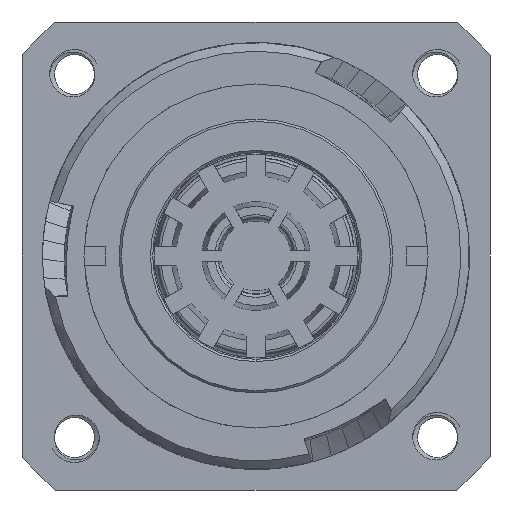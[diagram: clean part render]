
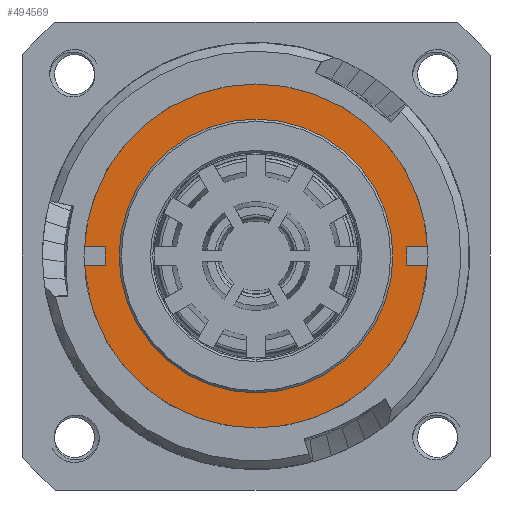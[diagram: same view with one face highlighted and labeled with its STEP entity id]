
A CAD part, left-side view. The second image highlights one B-rep face of the part: STEP entity #494569.
In plain terms, the highlighted planar face has unit normal (-1, 0, 0).
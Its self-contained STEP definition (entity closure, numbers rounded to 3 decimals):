
#144282=CARTESIAN_POINT('',(17.8,0.,0.));
#144283=DIRECTION('',(1.,0.,0.));
#144284=DIRECTION('',(0.,-0.999,0.055));
#144285=AXIS2_PLACEMENT_3D('',#144282,#144283,#144284);
#144287=CARTESIAN_POINT('',(17.8,0.,0.));
#144288=DIRECTION('',(-1.,0.,0.));
#144289=DIRECTION('',(0.,-1.,0.));
#144290=AXIS2_PLACEMENT_3D('',#144287,#144288,#144289);
#144292=CARTESIAN_POINT('',(17.8,0.,0.));
#144293=DIRECTION('',(1.,0.,0.));
#144294=DIRECTION('',(0.,-1.,0.));
#144295=AXIS2_PLACEMENT_3D('',#144292,#144293,#144294);
#144313=CARTESIAN_POINT('',(17.8,0.,0.));
#144314=DIRECTION('',(-1.,0.,0.));
#144315=DIRECTION('',(0.,-0.999,0.055));
#144316=AXIS2_PLACEMENT_3D('',#144313,#144314,#144315);
#146991=CARTESIAN_POINT('',(17.8,-12.,0.));
#146992=CARTESIAN_POINT('',(17.8,12.,0.));
#146993=VERTEX_POINT('',#146991);
#146994=VERTEX_POINT('',#146992);
#147513=CARTESIAN_POINT('',(17.8,15.052,0.825));
#147514=VERTEX_POINT('',#147513);
#147519=CARTESIAN_POINT('',(17.8,-15.052,0.825));
#147520=VERTEX_POINT('',#147519);
#494553=CARTESIAN_POINT('',(17.8,0.,0.));
#494554=DIRECTION('',(-1.,0.,0.));
#494555=DIRECTION('',(0.,1.,0.));
#494556=AXIS2_PLACEMENT_3D('',#494553,#494554,#494555);
#494557=PLANE('312',#494556);
#494559=ORIENTED_EDGE('12490',*,*,#494558,.F.);
#494560=ORIENTED_EDGE('12499',*,*,#494520,.T.);
#494561=EDGE_LOOP('312',(#494559,#494560));
#494562=FACE_OUTER_BOUND('312',#494561,.F.);
#494564=ORIENTED_EDGE('11887',*,*,#494563,.T.);
#494566=ORIENTED_EDGE('11886',*,*,#494565,.F.);
#494567=EDGE_LOOP('312',(#494564,#494566));
#494568=FACE_BOUND('312',#494567,.F.);
#144286=CIRCLE('12499',#144285,15.075);
#144291=CIRCLE('11887',#144290,12.);
#144296=CIRCLE('11886',#144295,12.);
#144317=CIRCLE('12490',#144316,15.075);
#494520=EDGE_CURVE('12499',#147520,#147514,#144286,.T.);
#494558=EDGE_CURVE('12490',#147520,#147514,#144317,.T.);
#494563=EDGE_CURVE('11887',#146993,#146994,#144291,.T.);
#494565=EDGE_CURVE('11886',#146993,#146994,#144296,.T.);
#494569=ADVANCED_FACE('312',(#494562,#494568),#494557,.T.);
